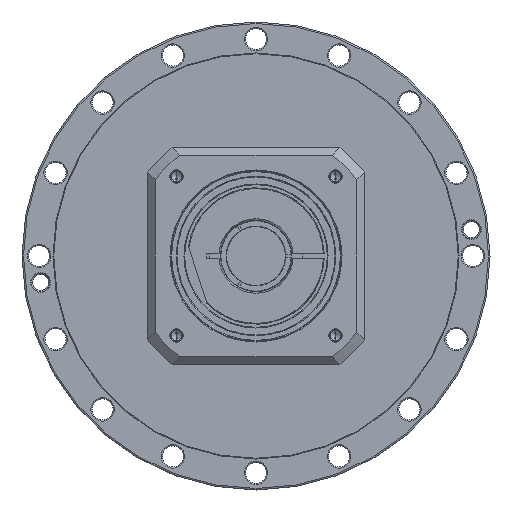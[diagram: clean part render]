
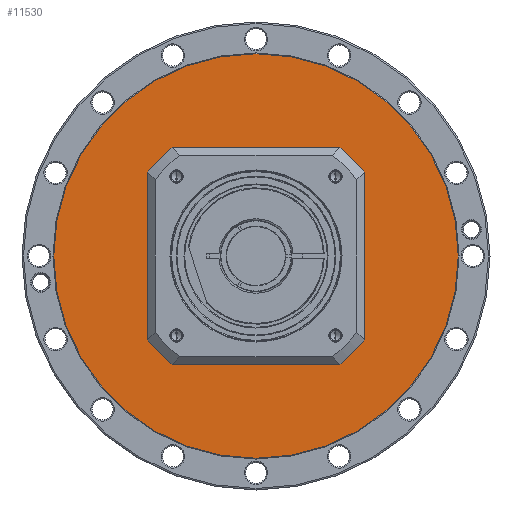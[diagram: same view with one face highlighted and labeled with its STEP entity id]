
A CAD part, left-side view. The second image highlights one B-rep face of the part: STEP entity #11530.
In plain terms, the highlighted planar face has unit normal (-1, 0, 0) as drawn and (1, 0, 0) by its records, which use the part's own axes.
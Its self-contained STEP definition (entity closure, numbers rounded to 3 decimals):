
#10561=CARTESIAN_POINT('',(-3.5,0.,0.));
#10562=DIRECTION('',(-1.,0.,0.));
#10563=DIRECTION('',(0.,-1.,0.));
#10564=AXIS2_PLACEMENT_3D('',#10561,#10562,#10563);
#10566=CARTESIAN_POINT('',(-3.5,0.,0.));
#10567=DIRECTION('',(-1.,0.,0.));
#10568=DIRECTION('',(0.,1.,0.));
#10569=AXIS2_PLACEMENT_3D('',#10566,#10567,#10568);
#10571=CARTESIAN_POINT('',(-3.5,0.,0.));
#10572=DIRECTION('',(-1.,0.,0.));
#10573=DIRECTION('',(0.,-1.,0.));
#10574=AXIS2_PLACEMENT_3D('',#10571,#10572,#10573);
#10576=CARTESIAN_POINT('',(-3.5,0.,0.));
#10577=DIRECTION('',(-1.,0.,0.));
#10578=DIRECTION('',(0.,1.,0.));
#10579=AXIS2_PLACEMENT_3D('',#10576,#10577,#10578);
#10809=CARTESIAN_POINT('',(-3.5,-130.5,0.));
#10810=CARTESIAN_POINT('',(-3.5,130.5,0.));
#10811=VERTEX_POINT('',#10809);
#10812=VERTEX_POINT('',#10810);
#10825=CARTESIAN_POINT('',(-3.5,-70.,0.));
#10826=CARTESIAN_POINT('',(-3.5,70.,0.));
#10827=VERTEX_POINT('',#10825);
#10828=VERTEX_POINT('',#10826);
#11515=CARTESIAN_POINT('',(-3.5,0.,0.));
#11516=DIRECTION('',(1.,0.,0.));
#11517=DIRECTION('',(0.,-1.,0.));
#11518=AXIS2_PLACEMENT_3D('',#11515,#11516,#11517);
#11519=PLANE('',#11518);
#11520=ORIENTED_EDGE('',*,*,#11471,.T.);
#11521=ORIENTED_EDGE('',*,*,#11456,.T.);
#11522=EDGE_LOOP('',(#11520,#11521));
#11523=FACE_OUTER_BOUND('',#11522,.F.);
#11525=ORIENTED_EDGE('',*,*,#11524,.F.);
#11527=ORIENTED_EDGE('',*,*,#11526,.F.);
#11528=EDGE_LOOP('',(#11525,#11527));
#11529=FACE_BOUND('',#11528,.F.);
#11530=ADVANCED_FACE('',(#11523,#11529),#11519,.T.);
#10565=CIRCLE('',#10564,70.);
#10570=CIRCLE('',#10569,70.);
#10575=CIRCLE('',#10574,130.5);
#10580=CIRCLE('',#10579,130.5);
#11456=EDGE_CURVE('',#10812,#10811,#10580,.T.);
#11471=EDGE_CURVE('',#10811,#10812,#10575,.T.);
#11524=EDGE_CURVE('',#10827,#10828,#10565,.T.);
#11526=EDGE_CURVE('',#10828,#10827,#10570,.T.);
